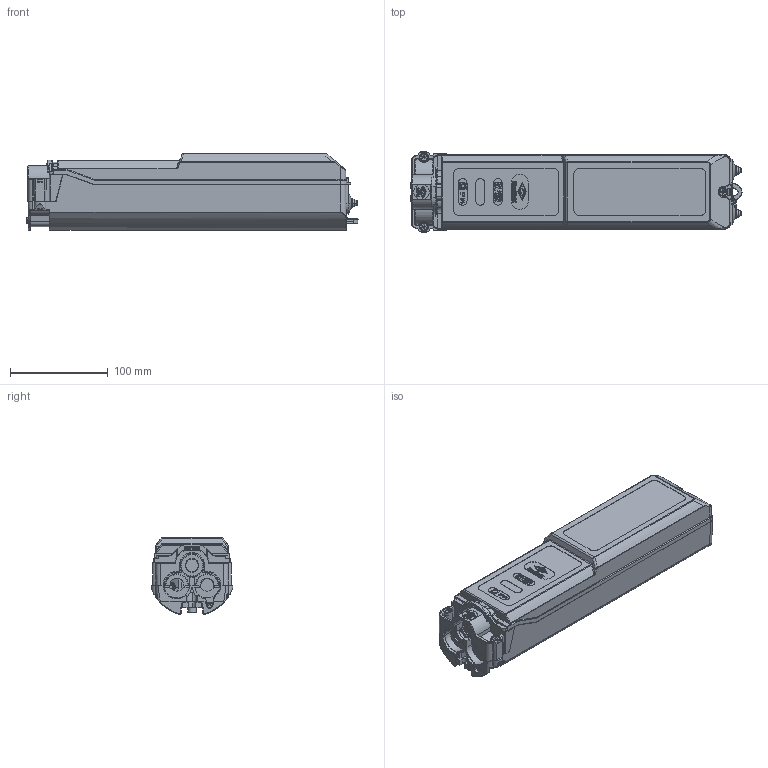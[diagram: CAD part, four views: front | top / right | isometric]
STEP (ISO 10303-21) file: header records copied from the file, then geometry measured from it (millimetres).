
FILE_DESCRIPTION (( 'STEP AP203' ), '1' );
FILE_NAME ('3D - HSW3025 Außenkontur.STEP', '2019-07-31T06:13:14', ( '' ), ( '' ), 'SwSTEP 2.0', 'SolidWorks 2013', '' );
FILE_SCHEMA (( 'CONFIG_CONTROL_DESIGN' ));
Length unit declared in the file: millimetre
Products named in the file (1): 3D - HSW3025 Außenkontur
Bounding box: 339.54 x 83.5 x 78.61 mm (x, y, z)
Surface area: 125990.3 mm2 (no closed solid volume)
Topology: 0 solids, 26 shells, 1178 faces, 4194 edges, 2955 vertices
Faces by surface type: plane 533, cylinder 302, bspline 139, cone 101, torus 93, sphere 10
Entity records: 54892 total; most frequent: CARTESIAN_POINT 21308, ORIENTED_EDGE 6731, DIRECTION 6330, EDGE_CURVE 4184, VERTEX_POINT 2955, LINE 2414, VECTOR 2414, AXIS2_PLACEMENT_3D 1958
